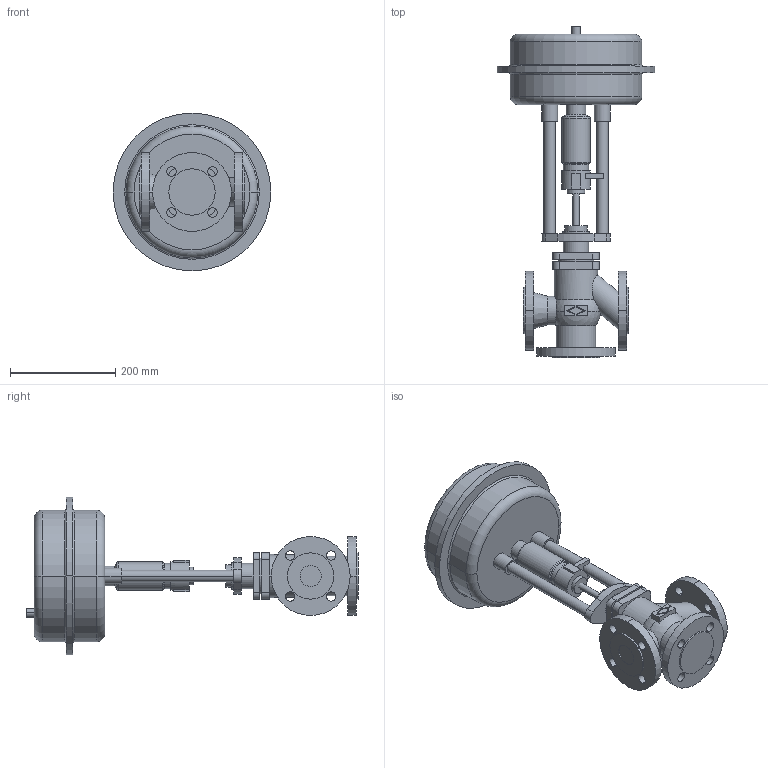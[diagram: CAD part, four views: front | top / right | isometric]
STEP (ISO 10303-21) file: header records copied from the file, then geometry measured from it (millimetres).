
FILE_DESCRIPTION(('OneSpaceDesigner STEP Export'),'2;1');
FILE_NAME('c000000664.stp','2006-09-19T10:00:54',(''),(''),'OneSpace Designer STEP processor for AP214 (Solid Model)','OneSpace Designer 13.20A 18-Aug-2005 (C) CoCreate Software GmbH','');
FILE_SCHEMA(('AUTOMOTIVE_DESIGN { 1 0 10303 214 1 1 1 1 }'));
Length unit declared in the file: millimetre
Products named in the file (2): 1; 2
Bounding box: 300 x 631.1 x 300 mm (x, y, z)
Volume: 9644765.9 mm3; surface area: 534110.9 mm2
Topology: 2 solids, 2 shells, 203 faces, 488 edges, 317 vertices
Faces by surface type: cylinder 96, plane 81, torus 16, cone 6, sphere 4
Entity records: 5487 total; most frequent: CARTESIAN_POINT 1094, ORIENTED_EDGE 976, DIRECTION 812, EDGE_CURVE 488, VERTEX_POINT 317, AXIS2_PLACEMENT_3D 296, EDGE_LOOP 255, VECTOR 220
